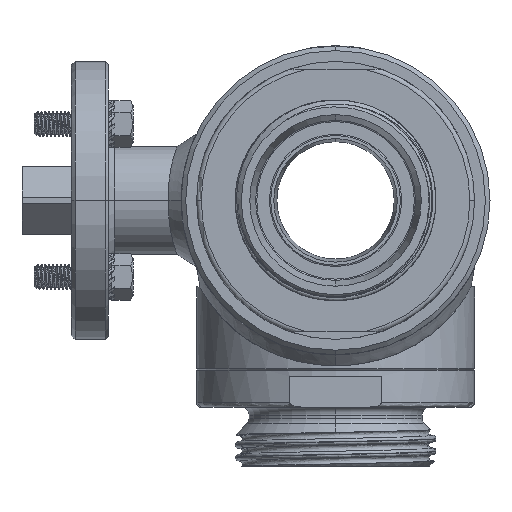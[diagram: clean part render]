
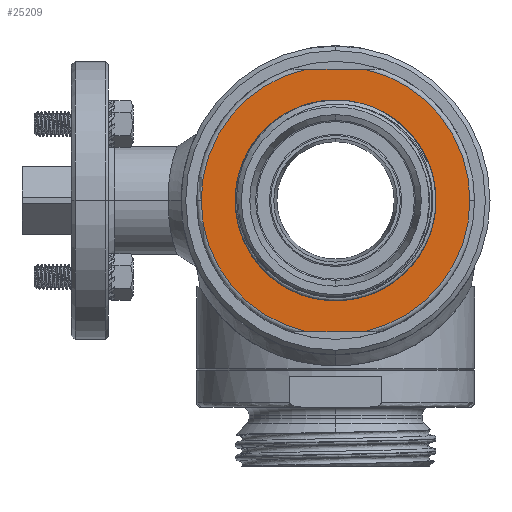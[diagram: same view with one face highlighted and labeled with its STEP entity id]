
A CAD part, left-side view. The second image highlights one B-rep face of the part: STEP entity #25209.
In plain terms, the highlighted planar face has unit normal (-1, 0, 0).
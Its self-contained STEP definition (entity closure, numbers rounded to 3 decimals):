
#23257=DIRECTION('',(0.,1.,0.));
#23258=VECTOR('',#23257,18.547);
#23259=CARTESIAN_POINT('',(-67.,-9.274,-42.5));
#23260=LINE('',#23259,#23258);
#23261=DIRECTION('',(0.,1.,0.));
#23262=VECTOR('',#23261,18.547);
#23263=CARTESIAN_POINT('',(-67.,-9.274,42.5));
#23264=LINE('',#23263,#23262);
#23265=CARTESIAN_POINT('',(-67.,0.,0.));
#23266=DIRECTION('',(-1.,0.,0.));
#23267=DIRECTION('',(0.,0.,1.));
#23268=AXIS2_PLACEMENT_3D('',#23265,#23266,#23267);
#23275=CARTESIAN_POINT('',(-67.,0.,0.));
#23276=DIRECTION('',(-1.,0.,0.));
#23277=DIRECTION('',(0.,0.,-1.));
#23278=AXIS2_PLACEMENT_3D('',#23275,#23276,#23277);
#24894=CARTESIAN_POINT('',(-67.,0.,0.));
#24895=DIRECTION('',(-1.,0.,0.));
#24896=DIRECTION('',(0.,-0.213,-0.977));
#24897=AXIS2_PLACEMENT_3D('',#24894,#24895,#24896);
#24927=CARTESIAN_POINT('',(-67.,0.,0.));
#24928=DIRECTION('',(-1.,0.,0.));
#24929=DIRECTION('',(0.,-1.,0.));
#24930=AXIS2_PLACEMENT_3D('',#24927,#24928,#24929);
#24963=CARTESIAN_POINT('',(-67.,0.,0.));
#24964=DIRECTION('',(-1.,0.,0.));
#24965=DIRECTION('',(0.,0.213,0.977));
#24966=AXIS2_PLACEMENT_3D('',#24963,#24964,#24965);
#24996=CARTESIAN_POINT('',(-67.,0.,0.));
#24997=DIRECTION('',(-1.,0.,0.));
#24998=DIRECTION('',(0.,1.,0.));
#24999=AXIS2_PLACEMENT_3D('',#24996,#24997,#24998);
#25060=CARTESIAN_POINT('',(-67.,0.,30.5));
#25061=CARTESIAN_POINT('',(-67.,0.,-30.5));
#25062=VERTEX_POINT('',#25060);
#25063=VERTEX_POINT('',#25061);
#25100=CARTESIAN_POINT('',(-67.,43.5,0.));
#25101=CARTESIAN_POINT('',(-67.,9.274,-42.5));
#25102=VERTEX_POINT('',#25100);
#25103=VERTEX_POINT('',#25101);
#25108=CARTESIAN_POINT('',(-67.,9.274,42.5));
#25109=VERTEX_POINT('',#25108);
#25112=CARTESIAN_POINT('',(-67.,-43.5,0.));
#25113=CARTESIAN_POINT('',(-67.,-9.274,42.5));
#25114=VERTEX_POINT('',#25112);
#25115=VERTEX_POINT('',#25113);
#25120=CARTESIAN_POINT('',(-67.,-9.274,-42.5));
#25121=VERTEX_POINT('',#25120);
#25184=CARTESIAN_POINT('',(-67.,0.,0.));
#25185=DIRECTION('',(-1.,0.,0.));
#25186=DIRECTION('',(0.,1.,0.));
#25187=AXIS2_PLACEMENT_3D('',#25184,#25185,#25186);
#25188=PLANE('',#25187);
#25190=ORIENTED_EDGE('',*,*,#25189,.T.);
#25192=ORIENTED_EDGE('',*,*,#25191,.F.);
#25194=ORIENTED_EDGE('',*,*,#25193,.F.);
#25196=ORIENTED_EDGE('',*,*,#25195,.F.);
#25198=ORIENTED_EDGE('',*,*,#25197,.F.);
#25200=ORIENTED_EDGE('',*,*,#25199,.F.);
#25201=EDGE_LOOP('',(#25190,#25192,#25194,#25196,#25198,#25200));
#25202=FACE_OUTER_BOUND('',#25201,.F.);
#25204=ORIENTED_EDGE('',*,*,#25203,.T.);
#25206=ORIENTED_EDGE('',*,*,#25205,.T.);
#25207=EDGE_LOOP('',(#25204,#25206));
#25208=FACE_BOUND('',#25207,.F.);
#25209=ADVANCED_FACE('',(#25202,#25208),#25188,.T.);
#23269=CIRCLE('',#23268,30.5);
#23279=CIRCLE('',#23278,30.5);
#24898=CIRCLE('',#24897,43.5);
#24931=CIRCLE('',#24930,43.5);
#24967=CIRCLE('',#24966,43.5);
#25000=CIRCLE('',#24999,43.5);
#25189=EDGE_CURVE('',#25121,#25103,#23260,.T.);
#25191=EDGE_CURVE('',#25102,#25103,#25000,.T.);
#25193=EDGE_CURVE('',#25109,#25102,#24967,.T.);
#25195=EDGE_CURVE('',#25115,#25109,#23264,.T.);
#25197=EDGE_CURVE('',#25114,#25115,#24931,.T.);
#25199=EDGE_CURVE('',#25121,#25114,#24898,.T.);
#25203=EDGE_CURVE('',#25062,#25063,#23269,.T.);
#25205=EDGE_CURVE('',#25063,#25062,#23279,.T.);
